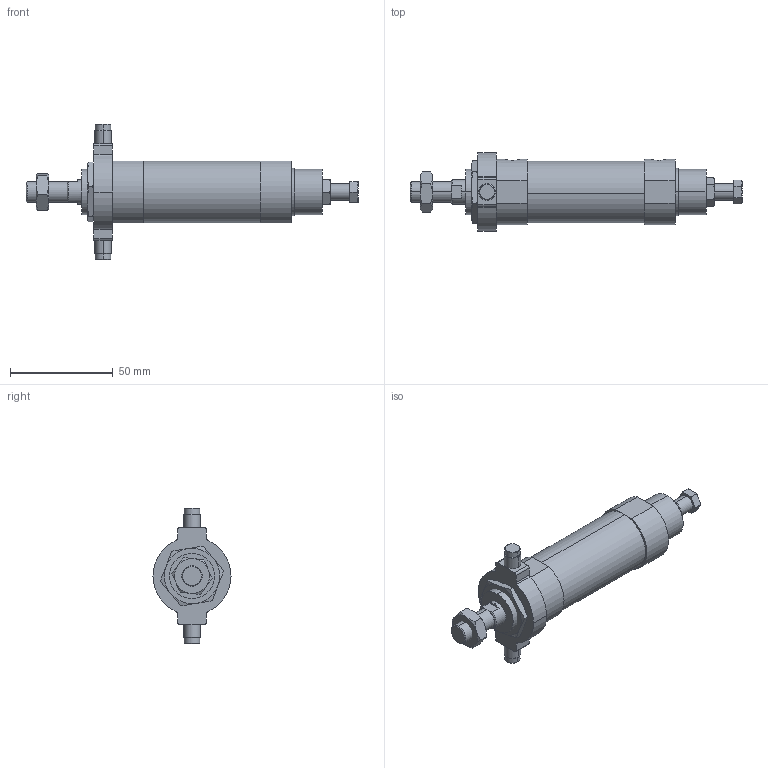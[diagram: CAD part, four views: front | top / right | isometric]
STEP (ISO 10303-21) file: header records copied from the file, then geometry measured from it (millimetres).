
FILE_DESCRIPTION (( 'STEP AP203' ), '1' );
FILE_NAME ('JGA2-25-25-T.STEP', '2016-04-20T05:07:14', ( '' ), ( '' ), 'SwSTEP 2.0', 'SolidWorks 2014', '' );
FILE_SCHEMA (( 'CONFIG_CONTROL_DESIGN' ));
Length unit declared in the file: millimetre
Products named in the file (7): JGLH2-25B; JGA2-25-25-T; 25-25; M10x1.5-6mm; J#2-25-T; JGA2-25A; M22x1.5-3mm
Assembly tree (6 placements, depth 2):
  JGA2-25-25-T
    JGLH2-25B
    25-25
    JGA2-25A
    M10x1.5-6mm
    M22x1.5-3mm
    J#2-25-T
Bounding box: 161.5 x 38 x 66 mm (x, y, z)
Volume: 87240.6 mm3; surface area: 23633.9 mm2
Topology: 6 solids, 6 shells, 163 faces, 365 edges, 222 vertices
Faces by surface type: plane 62, cylinder 49, torus 36, cone 16
Entity records: 5706 total; most frequent: CARTESIAN_POINT 1399, DIRECTION 767, ORIENTED_EDGE 722, EDGE_CURVE 361, AXIS2_PLACEMENT_3D 314, VERTEX_POINT 222, EDGE_LOOP 181, ADVANCED_FACE 163
